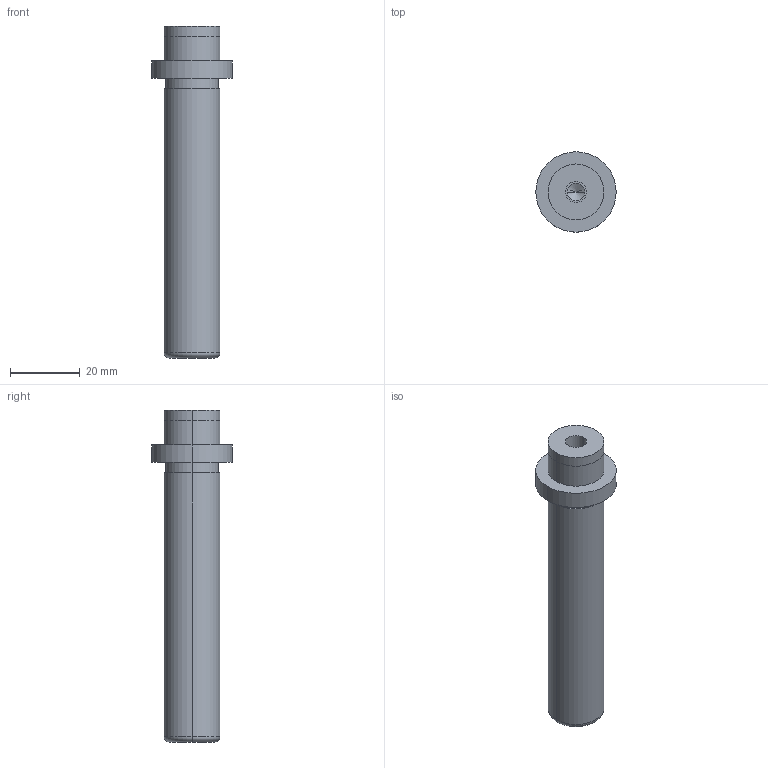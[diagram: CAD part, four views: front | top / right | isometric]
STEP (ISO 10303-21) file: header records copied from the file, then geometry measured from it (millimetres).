
FILE_DESCRIPTION(/* description */ (''),/* implementation_level */ '2;1');
FILE_NAME(/* name */ '3d_sgpw16-85_05282_r00.stp',/* time_stamp */ '2011-01-10T14:11:04+09:00',/* author */ ('MISUMI'),/* organization */ (''),/* preprocessor_version */ 'ST-DEVELOPER v11',/* originating_system */ 'UGS - NX 5.0',/* authorisation */ '');
FILE_SCHEMA (('CONFIG_CONTROL_DESIGN'));
Length unit declared in the file: millimetre
Products named in the file (1): 3d_sgpw16-85_05282_r00
Bounding box: 23 x 23 x 95 mm (x, y, z)
Volume: 19272.4 mm3; surface area: 6262.2 mm2
Topology: 1 solids, 1 shells, 31 faces, 64 edges, 38 vertices
Faces by surface type: cylinder 18, plane 7, cone 4, torus 2
Entity records: 890 total; most frequent: DIRECTION 162, CARTESIAN_POINT 130, ORIENTED_EDGE 120, AXIS2_PLACEMENT_3D 70, EDGE_CURVE 60, EDGE_LOOP 38, CIRCLE 38, VERTEX_POINT 38
